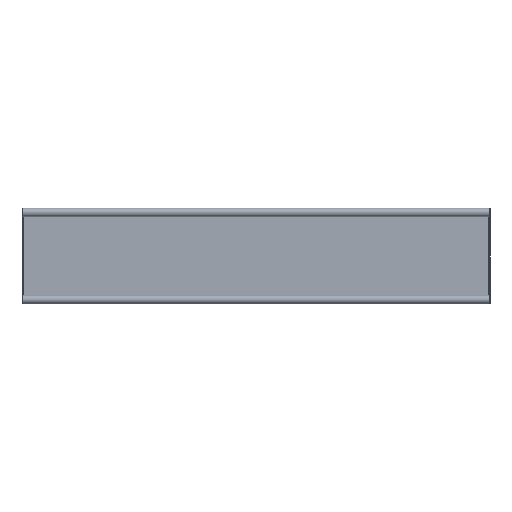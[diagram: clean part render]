
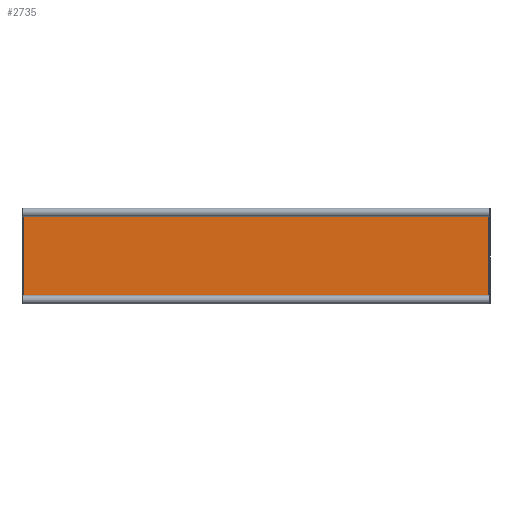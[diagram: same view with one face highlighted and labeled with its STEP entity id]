
A CAD part, front view. The second image highlights one B-rep face of the part: STEP entity #2735.
In plain terms, the highlighted planar face has unit normal (0, -1, 0).
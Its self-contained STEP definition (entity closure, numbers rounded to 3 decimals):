
#571 = FACE_OUTER_BOUND ( 'NONE', #6052, .T. ) ;
#754 = DIRECTION ( 'NONE',  ( 0., -1., 0. ) ) ;
#768 = AXIS2_PLACEMENT_3D ( 'NONE', #8362, #2943, #6669 ) ;
#855 = DIRECTION ( 'NONE',  ( 0., 0., 1. ) ) ;
#900 = DIRECTION ( 'NONE',  ( 1., 0., 0. ) ) ;
#970 = EDGE_CURVE ( 'NONE', #7279, #1907, #2690, .T. ) ;
#1139 = CARTESIAN_POINT ( 'NONE',  ( -545., -2., 108.5 ) ) ;
#1169 = LINE ( 'NONE', #4273, #6091 ) ;
#1290 = DIRECTION ( 'NONE',  ( 0., 0., 1. ) ) ;
#1376 = CARTESIAN_POINT ( 'NONE',  ( 549., -2., -111.5 ) ) ;
#1394 = CARTESIAN_POINT ( 'NONE',  ( 545., -2., 108.5 ) ) ;
#1450 = CARTESIAN_POINT ( 'NONE',  ( 549., -2., 111.5 ) ) ;
#1603 = DIRECTION ( 'NONE',  ( 0., 0., 1. ) ) ;
#1715 = CARTESIAN_POINT ( 'NONE',  ( -545., -2., -108.5 ) ) ;
#1907 = VERTEX_POINT ( 'NONE', #7402 ) ;
#1919 = VECTOR ( 'NONE', #1290, 1000. ) ;
#1958 = AXIS2_PLACEMENT_3D ( 'NONE', #1376, #2234, #4431 ) ;
#2076 = ORIENTED_EDGE ( 'NONE', *, *, #8347, .F. ) ;
#2117 = EDGE_CURVE ( 'NONE', #3717, #8409, #3309, .T. ) ;
#2234 = DIRECTION ( 'NONE',  ( 0., -1., 0. ) ) ;
#2608 = VERTEX_POINT ( 'NONE', #4877 ) ;
#2690 = CIRCLE ( 'NONE', #5907, 5. ) ;
#2735 = ADVANCED_FACE ( 'NONE', ( #571 ), #9815, .F. ) ;
#2771 = AXIS2_PLACEMENT_3D ( 'NONE', #1450, #5324, #1603 ) ;
#2867 = ORIENTED_EDGE ( 'NONE', *, *, #9483, .F. ) ;
#2943 = DIRECTION ( 'NONE',  ( 0., 1., 0. ) ) ;
#3033 = CARTESIAN_POINT ( 'NONE',  ( -549., -2., -111.5 ) ) ;
#3309 = LINE ( 'NONE', #6323, #3504 ) ;
#3504 = VECTOR ( 'NONE', #5728, 1000. ) ;
#3685 = EDGE_CURVE ( 'NONE', #5932, #2608, #5108, .T. ) ;
#3717 = VERTEX_POINT ( 'NONE', #1139 ) ;
#4252 = EDGE_CURVE ( 'NONE', #1907, #8165, #1169, .T. ) ;
#4273 = CARTESIAN_POINT ( 'NONE',  ( -546., -2., -111.5 ) ) ;
#4431 = DIRECTION ( 'NONE',  ( 0., 0., 1. ) ) ;
#4490 = CIRCLE ( 'NONE', #2771, 5. ) ;
#4877 = CARTESIAN_POINT ( 'NONE',  ( 546., -2., 107.5 ) ) ;
#4990 = CARTESIAN_POINT ( 'NONE',  ( 545., -2., -108.5 ) ) ;
#5000 = ORIENTED_EDGE ( 'NONE', *, *, #970, .F. ) ;
#5108 = LINE ( 'NONE', #8179, #1919 ) ;
#5324 = DIRECTION ( 'NONE',  ( 0., -1., 0. ) ) ;
#5492 = CIRCLE ( 'NONE', #1958, 5. ) ;
#5728 = DIRECTION ( 'NONE',  ( 1., 0., 0. ) ) ;
#5907 = AXIS2_PLACEMENT_3D ( 'NONE', #3033, #754, #8892 ) ;
#5932 = VERTEX_POINT ( 'NONE', #8980 ) ;
#6052 = EDGE_LOOP ( 'NONE', ( #2867, #9830, #2076, #8899, #8633, #8606, #5000, #6538 ) ) ;
#6091 = VECTOR ( 'NONE', #9605, 1000. ) ;
#6112 = VECTOR ( 'NONE', #900, 1000. ) ;
#6323 = CARTESIAN_POINT ( 'NONE',  ( -549., -2., 108.5 ) ) ;
#6433 = LINE ( 'NONE', #7845, #6112 ) ;
#6538 = ORIENTED_EDGE ( 'NONE', *, *, #6591, .T. ) ;
#6591 = EDGE_CURVE ( 'NONE', #7279, #9721, #6433, .T. ) ;
#6669 = DIRECTION ( 'NONE',  ( 0., 0., 1. ) ) ;
#6835 = CARTESIAN_POINT ( 'NONE',  ( -546., -2., 107.5 ) ) ;
#7279 = VERTEX_POINT ( 'NONE', #1715 ) ;
#7402 = CARTESIAN_POINT ( 'NONE',  ( -546., -2., -107.5 ) ) ;
#7845 = CARTESIAN_POINT ( 'NONE',  ( -549., -2., -108.5 ) ) ;
#7894 = AXIS2_PLACEMENT_3D ( 'NONE', #8585, #9392, #855 ) ;
#8165 = VERTEX_POINT ( 'NONE', #6835 ) ;
#8179 = CARTESIAN_POINT ( 'NONE',  ( 546., -2., -111.5 ) ) ;
#8347 = EDGE_CURVE ( 'NONE', #8409, #2608, #4490, .T. ) ;
#8362 = CARTESIAN_POINT ( 'NONE',  ( -549., -2., -111.5 ) ) ;
#8409 = VERTEX_POINT ( 'NONE', #1394 ) ;
#8585 = CARTESIAN_POINT ( 'NONE',  ( -549., -2., 111.5 ) ) ;
#8606 = ORIENTED_EDGE ( 'NONE', *, *, #4252, .F. ) ;
#8633 = ORIENTED_EDGE ( 'NONE', *, *, #9849, .F. ) ;
#8892 = DIRECTION ( 'NONE',  ( 0., 0., 1. ) ) ;
#8899 = ORIENTED_EDGE ( 'NONE', *, *, #2117, .F. ) ;
#8980 = CARTESIAN_POINT ( 'NONE',  ( 546., -2., -107.5 ) ) ;
#9392 = DIRECTION ( 'NONE',  ( 0., -1., 0. ) ) ;
#9483 = EDGE_CURVE ( 'NONE', #5932, #9721, #5492, .T. ) ;
#9498 = CIRCLE ( 'NONE', #7894, 5. ) ;
#9605 = DIRECTION ( 'NONE',  ( 0., 0., 1. ) ) ;
#9721 = VERTEX_POINT ( 'NONE', #4990 ) ;
#9815 = PLANE ( 'NONE',  #768 ) ;
#9830 = ORIENTED_EDGE ( 'NONE', *, *, #3685, .T. ) ;
#9849 = EDGE_CURVE ( 'NONE', #8165, #3717, #9498, .T. ) ;
